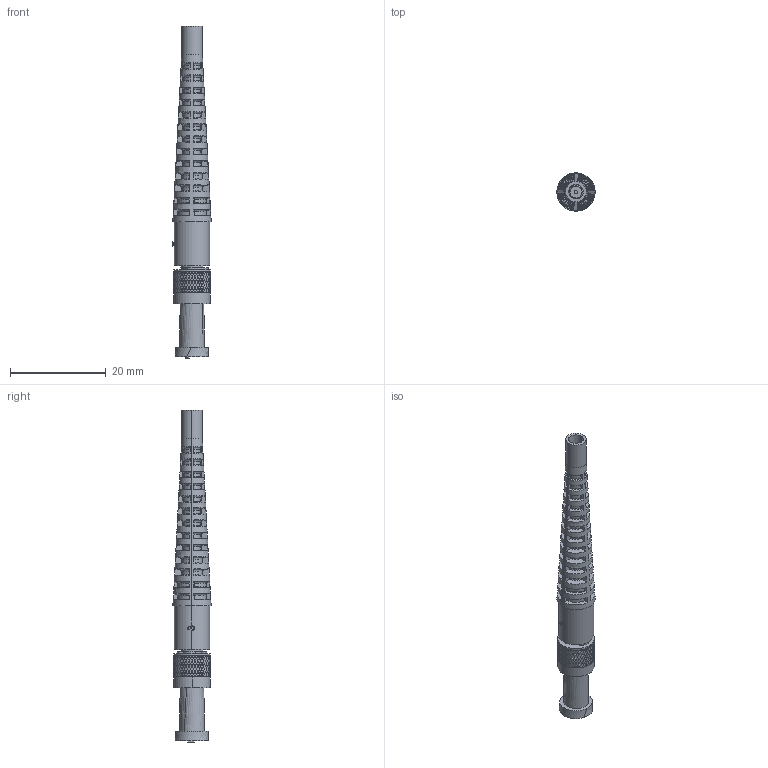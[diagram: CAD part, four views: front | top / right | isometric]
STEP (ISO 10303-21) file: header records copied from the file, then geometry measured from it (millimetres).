
FILE_DESCRIPTION (( 'STEP AP214' ), '1' );
FILE_NAME ('905-0641-0000 (STEP).STEP', '2024-04-12T17:10:41', ( '' ), ( '' ), 'SwSTEP 2.0', 'SolidWorks 2023', '' );
FILE_SCHEMA (( 'AUTOMOTIVE_DESIGN' ));
Products named in the file (1): 905-0641-0000 (STEP)
Bounding box: 8 x 8 x 69.28 mm (x, y, z)
Volume: 1433 mm3; surface area: 3775.1 mm2
Topology: 6 solids, 6 shells, 4226 faces, 8885 edges, 4741 vertices
Faces by surface type: bspline 2733, cylinder 990, plane 389, torus 103, cone 11
Entity records: 242730 total; most frequent: CARTESIAN_POINT 179229, ORIENTED_EDGE 17770, EDGE_CURVE 8885, DIRECTION 5822, B_SPLINE_CURVE_WITH_KNOTS 5280, VERTEX_POINT 4741, EDGE_LOOP 4304, ADVANCED_FACE 4226
